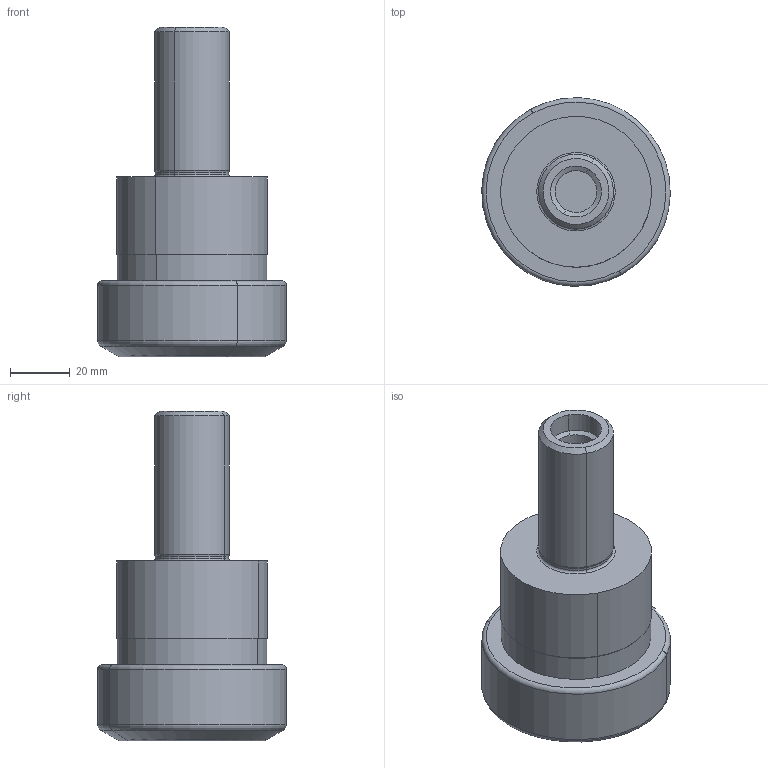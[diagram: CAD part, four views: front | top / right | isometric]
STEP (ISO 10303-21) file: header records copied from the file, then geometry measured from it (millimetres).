
FILE_DESCRIPTION(('CATIA V5 STEP','CAx-IF Rec.Pracs.--- Model Styling and Organization---1.2---2011-12-15'),'2;1');
FILE_NAME('\\nas01\drv1\utils\eitdev\rte\eit\transmagicconvert\db\out\635962328505826414\4508005 LM.stp','2016-04-14T09:14:24+00:00',('none'),('none'),'CATIA Version 5 Release 21 SP 5 (IN-10)','CATIA V5 STEP AP214','none');
FILE_SCHEMA(('AUTOMOTIVE_DESIGN { 1 0 10303 214 1 1 1 1 }'));
Length unit declared in the file: millimetre
Products named in the file (1): ST 25X 50 ER40 F
Bounding box: 62.98 x 62.98 x 110.03 mm (x, y, z)
Volume: 114796 mm3; surface area: 26434.4 mm2
Topology: 1 solids, 1 shells, 52 faces, 106 edges, 62 vertices
Faces by surface type: cylinder 20, cone 12, torus 10, plane 8, extrusion 2
Entity records: 1369 total; most frequent: CARTESIAN_POINT 347, ORIENTED_EDGE 212, DIRECTION 168, EDGE_CURVE 106, AXIS2_PLACEMENT_3D 101, CIRCLE 68, VERTEX_POINT 62, EDGE_LOOP 58
